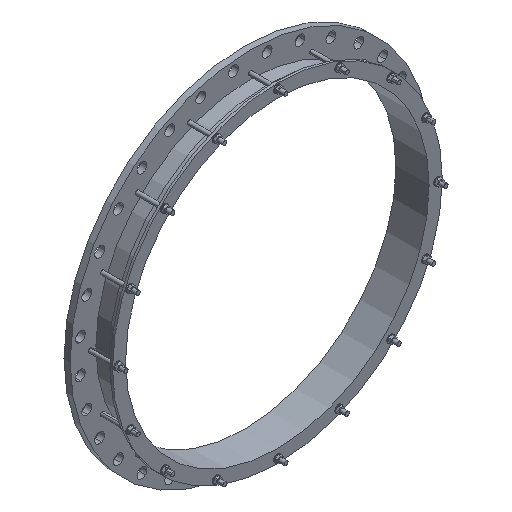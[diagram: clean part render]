
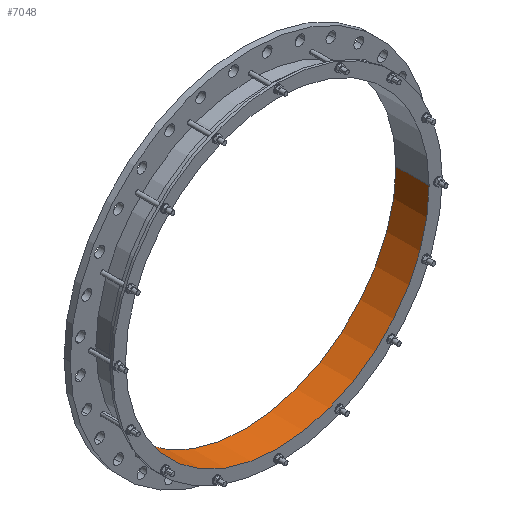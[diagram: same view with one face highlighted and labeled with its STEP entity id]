
A CAD part, isometric view. The second image highlights one B-rep face of the part: STEP entity #7048.
In plain terms, the highlighted cylindrical face has radius 612.75 mm (diameter 1225.5 mm), a partial arc.
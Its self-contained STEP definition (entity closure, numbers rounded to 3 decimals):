
#7=CARTESIAN_POINT('',(0.,25.,0.));
#8=DIRECTION('',(0.,1.,0.));
#9=DIRECTION('',(1.,0.,0.));
#10=AXIS2_PLACEMENT_3D('',#7,#8,#9);
#1924=CARTESIAN_POINT('',(0.,-109.,0.));
#1925=DIRECTION('',(0.,1.,0.));
#1926=DIRECTION('',(1.,0.,0.));
#1927=AXIS2_PLACEMENT_3D('',#1924,#1925,#1926);
#1929=DIRECTION('',(0.,1.,0.));
#1930=VECTOR('',#1929,134.);
#1931=CARTESIAN_POINT('',(612.75,-109.,0.));
#1932=LINE('',#1931,#1930);
#1933=DIRECTION('',(0.,1.,0.));
#1934=VECTOR('',#1933,134.);
#1935=CARTESIAN_POINT('',(-612.75,-109.,0.));
#1936=LINE('',#1935,#1934);
#4890=CARTESIAN_POINT('',(612.75,-109.,0.));
#4891=CARTESIAN_POINT('',(612.75,25.,0.));
#4892=VERTEX_POINT('',#4890);
#4893=VERTEX_POINT('',#4891);
#4902=CARTESIAN_POINT('',(-612.75,-109.,0.));
#4903=CARTESIAN_POINT('',(-612.75,25.,0.));
#4904=VERTEX_POINT('',#4902);
#4905=VERTEX_POINT('',#4903);
#7035=CARTESIAN_POINT('',(0.,-115.7,0.));
#7036=DIRECTION('',(0.,1.,0.));
#7037=DIRECTION('',(-1.,0.,0.));
#7038=AXIS2_PLACEMENT_3D('',#7035,#7036,#7037);
#7039=CYLINDRICAL_SURFACE('',#7038,612.75);
#7041=ORIENTED_EDGE('',*,*,#7040,.F.);
#7042=ORIENTED_EDGE('',*,*,#6934,.T.);
#7044=ORIENTED_EDGE('',*,*,#7043,.T.);
#7045=ORIENTED_EDGE('',*,*,#5995,.F.);
#7046=EDGE_LOOP('',(#7041,#7042,#7044,#7045));
#7047=FACE_OUTER_BOUND('',#7046,.F.);
#7048=ADVANCED_FACE('',(#7047),#7039,.F.);
#11=CIRCLE('',#10,612.75);
#1928=CIRCLE('',#1927,612.75);
#5995=EDGE_CURVE('',#4893,#4905,#11,.T.);
#6934=EDGE_CURVE('',#4892,#4904,#1928,.T.);
#7040=EDGE_CURVE('',#4892,#4893,#1932,.T.);
#7043=EDGE_CURVE('',#4904,#4905,#1936,.T.);
